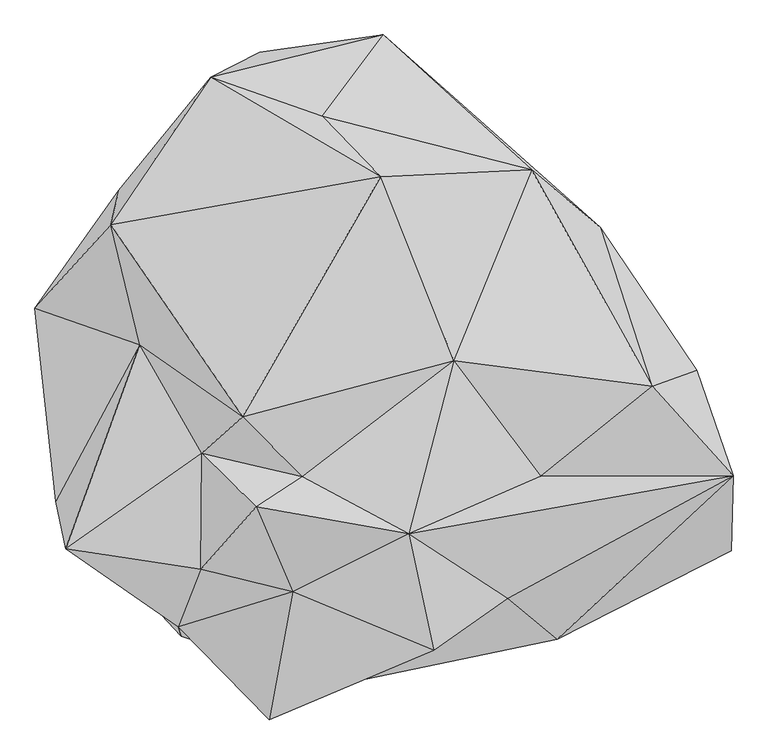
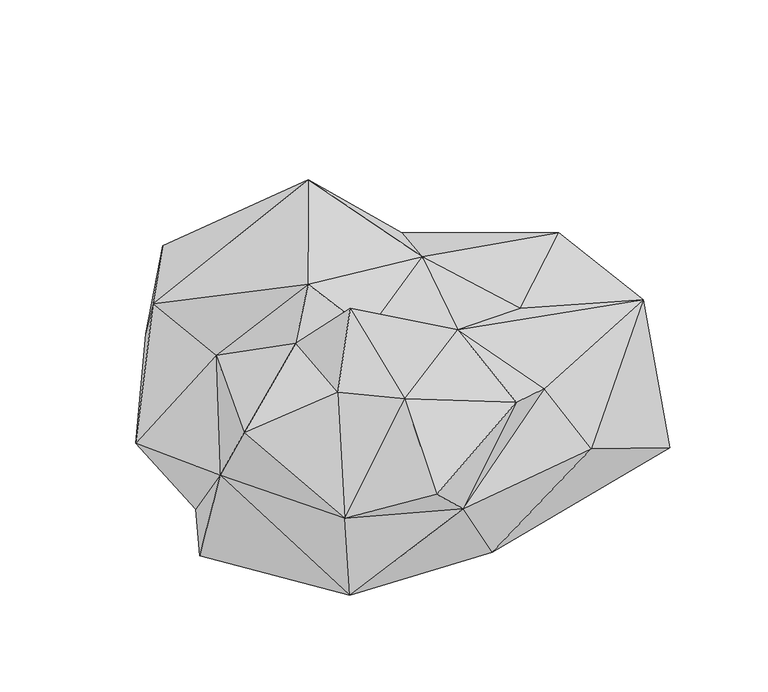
"""IFC4 building model written with IfcOpenShell, lengths in millimetres: geographic element geometry, Enscape AssetDefinition - Bush 012 English Laurel : Enscape AssetDefinition - Bush 012 English Laurel 2."""

from ifc_helpers import new_model, si_unit, origin, place, context, project, spatial, triangles, source, transform, mapped, element, save


def geographic_element_228c287f(model_context):
    return source(origin(), model_context, "Body", "Tessellation", [
        triangles([(-137.9616371, -154.1579232, 663.7612289), (36.1954515, 510.120934, 752.8634211), (-269.8539863, -21.8950298, 798.5859936), (636.7955057, 45.6049016, 628.95783), (370.1523336, 525.2428308, 432.744952), (389.9828819, -152.8783138, 558.49022), (197.0232392, 102.6922147, 660.3713923), (-498.13333, 137.8165333, 521.3458666), (-240.1545273, -220.6579521, 820.0000208), (-361.1454706, -102.7203198, 663.5240341), (-363.4334487, -359.962585, 639.5148891), (-661.7876575, -313.6381597, 567.9911662), (-684.1015572, -209.0265218, 356.7295701), (-562.7414503, 404.0742093, 571.7607036), (-412.4098924, -486.8456832, 271.9537491), (-694.0893923, -103.6953784, 0.0), (-730.4554138, 218.3993872, 230.2941735), (-321.6797836, 474.4829204, 0.0), (-581.711259, 114.4752618, 0.0), (-406.4510264, -507.5414766, 0.0), (76.8642763, -525.3205876, 0.0), (317.0965968, -423.2714387, 453.1421082), (-78.2641273, -619.30137, 270.9551727), (427.0867218, -514.2642858, 250.473029), (816.3878866, -152.1483438, 441.0257692), (153.2331977, -539.0942745, 532.0022292), (-159.5671497, -409.392562, 575.3584127), (-211.6550132, -692.5797461, 414.3188238), (97.9149536, -280.9423174, 660.2525042), (713.5552099, -66.9529263, 0.0), (812.7301884, -318.3363467, 0.0), (735.5332289, 81.7794378, 294.2840176), (522.2072239, 398.1545488, 183.6371013), (470.3082479, 251.4441906, 0.0), (-63.9068505, 601.9927245, 0.0), (-232.847506, 786.491819, 0.0), (109.8470015, 670.5860304, 80.8631965), (41.0785882, 824.3896511, 355.4532309), (-341.40903, 730.3331829, 509.5151207), (-94.3427879, 643.9183268, 610.1892809), (-442.9176959, 544.9773093, 188.2620915), (-577.6855236, 279.0595109, 125.0355547), (-544.3100899, 480.5764074, 409.2232773)], [[2, 14, 3], [41, 42, 43], [41, 18, 42], [36, 35, 18], [36, 18, 41], [36, 41, 39], [41, 43, 39], [39, 43, 14], [2, 39, 14], [40, 39, 2], [5, 40, 2], [5, 38, 40], [36, 39, 38], [39, 40, 38], [38, 37, 36], [37, 35, 36], [21, 18, 34], [18, 35, 34], [34, 35, 37], [33, 34, 37], [33, 37, 38], [33, 38, 5], [33, 5, 4], [32, 33, 4], [34, 33, 32], [34, 30, 21], [30, 34, 32], [31, 21, 30], [31, 30, 25], [25, 4, 6], [30, 32, 25], [4, 25, 32], [29, 25, 6], [15, 28, 27], [28, 26, 27], [27, 26, 29], [22, 25, 29], [26, 22, 29], [24, 25, 22], [31, 25, 24], [24, 21, 31], [15, 23, 28], [28, 23, 26], [26, 23, 22], [23, 24, 22], [21, 24, 23], [20, 18, 21], [21, 23, 20], [20, 23, 15], [19, 18, 20], [20, 16, 19], [42, 18, 19], [43, 42, 17], [42, 19, 17], [17, 14, 43], [19, 13, 17], [19, 16, 13], [13, 16, 20], [13, 20, 15], [3, 14, 8], [14, 17, 8], [17, 13, 8], [13, 15, 12], [13, 12, 8], [15, 11, 12], [15, 27, 11], [11, 27, 9], [9, 27, 29], [8, 10, 3], [10, 11, 9], [10, 12, 11], [8, 12, 10], [1, 3, 10], [9, 29, 1], [10, 9, 1], [29, 7, 1], [6, 7, 29], [6, 4, 7], [7, 5, 2], [4, 5, 7], [7, 2, 3], [7, 3, 1]]),
    ])


if __name__ == "__main__":
    model = new_model("IFC4")
    model_context = context("Model", 3, world=origin())
    ifc_project = project(units=[si_unit("LENGTHUNIT", "METRE", prefix="MILLI")], contexts=[model_context])
    site = spatial("IfcSite", under=ifc_project)
    building = spatial("IfcBuilding", under=site)
    placement = place(None, origin())
    geographic_element_shape = geographic_element_228c287f(model_context)
    element("IfcGeographicElement", 1, ObjectType="Enscape AssetDefinition - Bush 012 English Laurel : Enscape AssetDefinition - Bush 012 English Laurel 2", at=placement, inside=building, context=model_context, shape_type="MappedRepresentation", body=[
        mapped(geographic_element_shape, transform((0.0, 0.0, 0.0), x_axis=(1.0, 0.0, 0.0), y_axis=(0.0, 1.0, 0.0), z_axis=(0.0, 0.0, 1.0))),
    ])
    save(model, "model.ifc")
